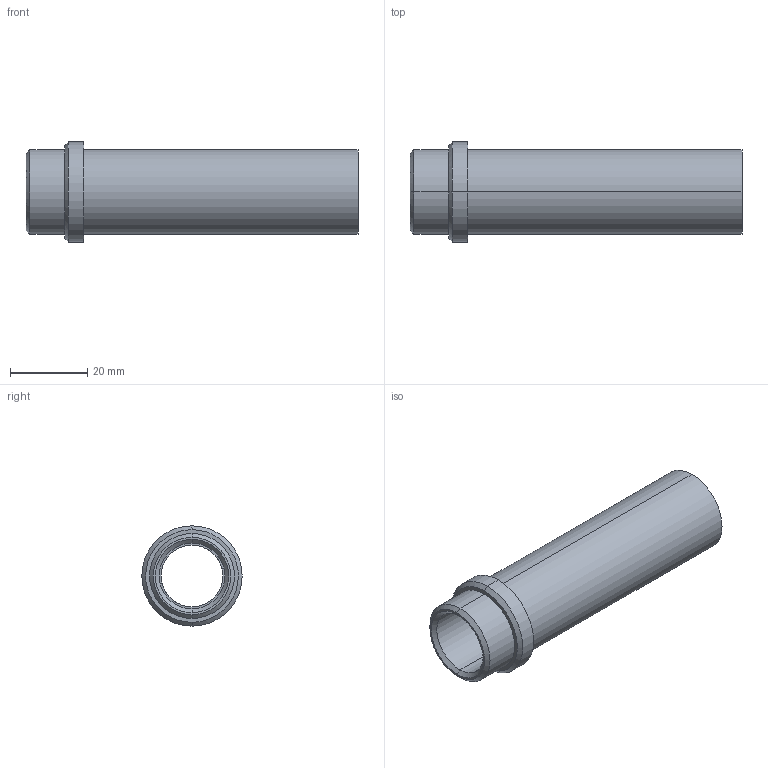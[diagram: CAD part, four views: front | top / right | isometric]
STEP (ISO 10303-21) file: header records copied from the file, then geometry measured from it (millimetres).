
FILE_DESCRIPTION(('CATIA V5 STEP Exchange'),'2;1');
FILE_NAME('C:\Users\Utente\Desktop\IO LAVORO\3D X SITO CF\X SITO\PLASTICA\358\358-16x86.stp','2021-04-08T13:14:48+00:00',('none'),('none'),'CATIA Version 5 Release 20 GA (IN-10)','CATIA V5 STEP AP203','none');
FILE_SCHEMA(('CONFIG_CONTROL_DESIGN'));
Length unit declared in the file: millimetre
Products named in the file (1): 358-16X86
Bounding box: 86 x 26 x 26 mm (x, y, z)
Volume: 14607.9 mm3; surface area: 10996.6 mm2
Topology: 1 solids, 1 shells, 23 faces, 74 edges, 56 vertices
Faces by surface type: cylinder 10, cone 6, plane 5, torus 2
Entity records: 1066 total; most frequent: CARTESIAN_POINT 378, ORIENTED_EDGE 148, DIRECTION 104, EDGE_CURVE 74, AXIS2_PLACEMENT_3D 66, VERTEX_POINT 56, CIRCLE 42, EDGE_LOOP 28
